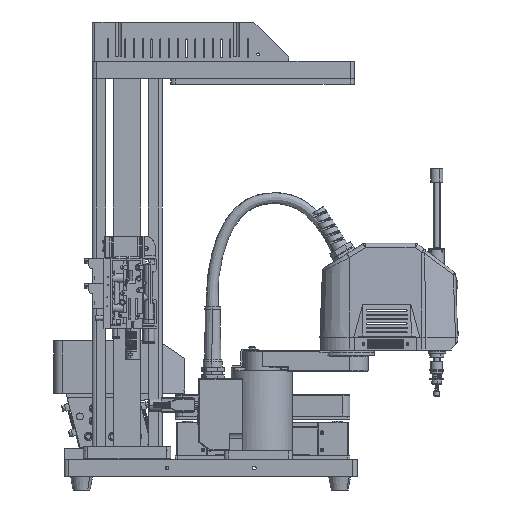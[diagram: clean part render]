
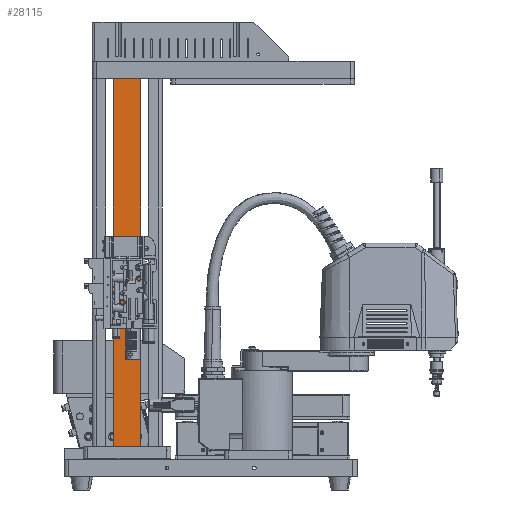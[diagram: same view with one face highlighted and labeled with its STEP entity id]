
A CAD part, left-side view. The second image highlights one B-rep face of the part: STEP entity #28115.
In plain terms, the highlighted planar face has unit normal (-1, 0, 0).
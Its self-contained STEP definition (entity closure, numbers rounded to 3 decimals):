
#4575 = LINE ( 'NONE', #110251, #86280 ) ;
#6741 = DIRECTION ( 'NONE',  ( 0., 0., 1. ) ) ;
#8520 = CARTESIAN_POINT ( 'NONE',  ( -37.849, 28.877, 25. ) ) ;
#12099 = CARTESIAN_POINT ( 'NONE',  ( -37.849, 60.477, 25. ) ) ;
#14288 = CARTESIAN_POINT ( 'NONE',  ( -37.849, 28.877, 25. ) ) ;
#14313 = VERTEX_POINT ( 'NONE', #12099 ) ;
#15223 = CARTESIAN_POINT ( 'NONE',  ( -37.849, 84.677, 25. ) ) ;
#28115 = ADVANCED_FACE ( 'NONE', ( #89073 ), #107691, .F. ) ;
#30765 = EDGE_CURVE ( 'NONE', #14313, #103961, #97559, .T. ) ;
#32892 = LINE ( 'NONE', #14288, #117263 ) ;
#34911 = VERTEX_POINT ( 'NONE', #54194 ) ;
#37245 = DIRECTION ( 'NONE',  ( 0., -1., 0. ) ) ;
#52403 = CARTESIAN_POINT ( 'NONE',  ( -37.849, 84.677, 445. ) ) ;
#53934 = ORIENTED_EDGE ( 'NONE', *, *, #75435, .T. ) ;
#54194 = CARTESIAN_POINT ( 'NONE',  ( -37.849, 60.477, 445. ) ) ;
#55654 = VECTOR ( 'NONE', #37245, 1000. ) ;
#58850 = EDGE_CURVE ( 'NONE', #34911, #82289, #84724, .T. ) ;
#67742 = AXIS2_PLACEMENT_3D ( 'NONE', #52403, #79453, #6741 ) ;
#68847 = ORIENTED_EDGE ( 'NONE', *, *, #30765, .T. ) ;
#70330 = EDGE_LOOP ( 'NONE', ( #68847, #53934, #79085, #93117 ) ) ;
#71618 = DIRECTION ( 'NONE',  ( 0., -1., 0. ) ) ;
#75435 = EDGE_CURVE ( 'NONE', #103961, #82289, #32892, .T. ) ;
#79085 = ORIENTED_EDGE ( 'NONE', *, *, #58850, .F. ) ;
#79453 = DIRECTION ( 'NONE',  ( 1., 0., 0. ) ) ;
#81405 = DIRECTION ( 'NONE',  ( 0., 0., 1. ) ) ;
#82289 = VERTEX_POINT ( 'NONE', #102529 ) ;
#82918 = CARTESIAN_POINT ( 'NONE',  ( -37.849, 84.677, 445. ) ) ;
#84724 = LINE ( 'NONE', #82918, #55654 ) ;
#86280 = VECTOR ( 'NONE', #81405, 1000. ) ;
#86397 = DIRECTION ( 'NONE',  ( 0., 0., 1. ) ) ;
#89073 = FACE_OUTER_BOUND ( 'NONE', #70330, .T. ) ;
#93117 = ORIENTED_EDGE ( 'NONE', *, *, #111732, .F. ) ;
#97559 = LINE ( 'NONE', #15223, #98041 ) ;
#98041 = VECTOR ( 'NONE', #71618, 1000. ) ;
#102529 = CARTESIAN_POINT ( 'NONE',  ( -37.849, 28.877, 445. ) ) ;
#103961 = VERTEX_POINT ( 'NONE', #8520 ) ;
#107691 = PLANE ( 'NONE',  #67742 ) ;
#110251 = CARTESIAN_POINT ( 'NONE',  ( -37.849, 60.477, 25. ) ) ;
#111732 = EDGE_CURVE ( 'NONE', #14313, #34911, #4575, .T. ) ;
#117263 = VECTOR ( 'NONE', #86397, 1000. ) ;
